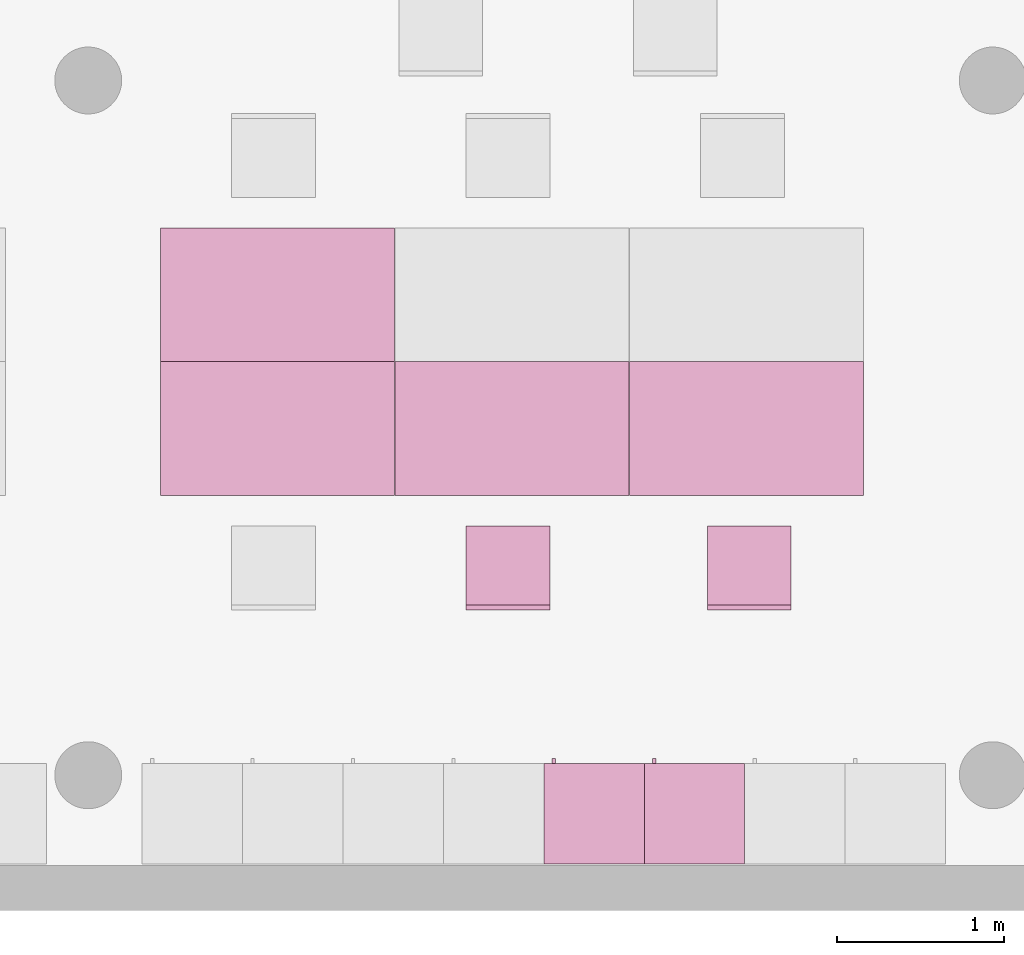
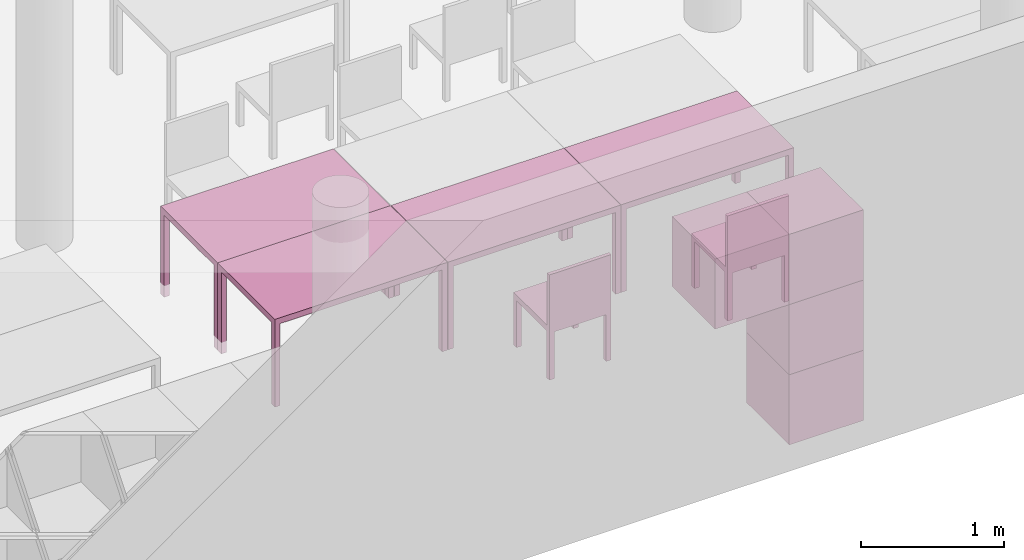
"""IFC4 building model written with IfcOpenShell, lengths in metres."""

from ifc_helpers import new_model, entity, si_unit, converted_unit, derived_unit, frame, origin, place, context, subcontext, project, spatial, faceted_brep, element, save


model = new_model("IFC4")

# Units and contexts
model_context = context("Model", 3, precision=1e-05, world=origin())
body_context = subcontext(model_context, "Body", "Model", "MODEL_VIEW")
ifc_project = project(units=[si_unit("LENGTHUNIT", "METRE"), si_unit("AREAUNIT", "SQUARE_METRE"), si_unit("VOLUMEUNIT", "CUBIC_METRE"), si_unit("MASSUNIT", "GRAM", prefix="KILO"), converted_unit("PLANEANGLEUNIT", "DEGREE", entity("IfcPlaneAngleMeasure", 0.0174532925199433), si_unit("PLANEANGLEUNIT", "RADIAN"), dimensions=[0, 0, 0, 0, 0, 0, 0]), derived_unit("THERMALTRANSMITTANCEUNIT", [(si_unit("POWERUNIT", "WATT"), 1), (si_unit("THERMODYNAMICTEMPERATUREUNIT", "KELVIN"), -1), (si_unit("LENGTHUNIT", "METRE"), -2)]), derived_unit("VOLUMETRICFLOWRATEUNIT", [(si_unit("LENGTHUNIT", "METRE"), 3), (converted_unit("TIMEUNIT", "hour", entity("IfcTimeMeasure", 3600.0), si_unit("TIMEUNIT", "SECOND"), dimensions=[0, 0, 1, 0, 0, 0, 0]), -1), (si_unit("LENGTHUNIT", "METRE"), -1)])], contexts=[model_context])

# Building, storeys
building_placement = place(None, origin())
building = spatial("IfcBuilding", under=ifc_project, at=building_placement, Name="HABITATGE PLURIFAMILIAR", CompositionType="ELEMENT")
storey_1_placement = place(building_placement, frame((0.0, 0.0, 15.28)))
storey_1 = spatial("IfcBuildingStorey", under=building, at=storey_1_placement, Name="PLANTA QUARTA", CompositionType="ELEMENT", Elevation=15.28)
storey_2_placement = place(storey_1_placement, frame((0.0, 0.0, 12.27)))
storey_2 = spatial("IfcBuildingStorey", under=storey_1, at=storey_2_placement, Name="NOU", CompositionType="PARTIAL")

# Furniture
furniture_1_placement = place(storey_2_placement, frame((411.165829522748, 15.3194598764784, -12.3699999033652)))
element("IfcFurniture", 1, at=furniture_1_placement, inside=storey_2, Name="Taula 140X80_P4", context=body_context, shape_type="Brep", body=[
    faceted_brep([(0.04375, 0.750069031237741, 0.0), (0.04375, 0.800069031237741, 0.0), (0.0, 0.800069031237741, 0.0), (0.0, 0.750069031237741, 0.0), (0.04375, 0.800069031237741, 0.7), (0.04375, 0.750069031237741, 0.7), (0.0, 0.750069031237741, 0.7), (0.0, 0.800069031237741, 0.7)], [[[0, 1, 2, 3]], [[4, 5, 6, 7]], [[1, 0, 5, 4]], [[2, 1, 4, 7]], [[3, 2, 7, 6]], [[0, 3, 6, 5]]], orient=[[False], [False], [False], [False], [False], [False]]),
    faceted_brep([(0.04375, 0.0, 0.0), (0.04375, 0.05, 0.0), (0.0, 0.05, 0.0), (0.0, 0.0, 0.0), (0.04375, 0.05, 0.7), (0.04375, 0.0, 0.7), (0.0, 0.0, 0.7), (0.0, 0.05, 0.7)], [[[0, 1, 2, 3]], [[4, 5, 6, 7]], [[1, 0, 5, 4]], [[2, 1, 4, 7]], [[3, 2, 7, 6]], [[0, 3, 6, 5]]], orient=[[False], [False], [False], [False], [False], [False]]),
    faceted_brep([(1.39732768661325, 0.0, 0.7), (1.39732768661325, 0.800069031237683, 0.7), (0.0, 0.800069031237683, 0.7), (0.0, 0.0, 0.7), (1.39732768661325, 0.800069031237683, 0.75), (1.39732768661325, 0.0, 0.75), (0.0, 0.0, 0.75), (0.0, 0.800069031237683, 0.75)], [[[0, 1, 2, 3]], [[4, 5, 6, 7]], [[1, 0, 5, 4]], [[2, 1, 4, 7]], [[3, 2, 7, 6]], [[0, 3, 6, 5]]], orient=[[False], [False], [False], [False], [False], [False]]),
    faceted_brep([(1.39732768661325, 0.750069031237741, 0.0), (1.39732768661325, 0.800069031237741, 0.0), (1.35357768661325, 0.800069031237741, 0.0), (1.35357768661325, 0.750069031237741, 0.0), (1.39732768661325, 0.800069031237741, 0.7), (1.39732768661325, 0.750069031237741, 0.7), (1.35357768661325, 0.750069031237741, 0.7), (1.35357768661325, 0.800069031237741, 0.7)], [[[0, 1, 2, 3]], [[4, 5, 6, 7]], [[1, 0, 5, 4]], [[2, 1, 4, 7]], [[3, 2, 7, 6]], [[0, 3, 6, 5]]], orient=[[False], [False], [False], [False], [False], [False]]),
    faceted_brep([(1.39732768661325, 0.0, 0.0), (1.39732768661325, 0.05, 0.0), (1.35357768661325, 0.05, 0.0), (1.35357768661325, 0.0, 0.0), (1.39732768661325, 0.05, 0.7), (1.39732768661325, 0.0, 0.7), (1.35357768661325, 0.0, 0.7), (1.35357768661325, 0.05, 0.7)], [[[0, 1, 2, 3]], [[4, 5, 6, 7]], [[1, 0, 5, 4]], [[2, 1, 4, 7]], [[3, 2, 7, 6]], [[0, 3, 6, 5]]], orient=[[False], [False], [False], [False], [False], [False]]),
])
furniture_2_placement = place(storey_2_placement, frame((412.567008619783, 15.3194598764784, -12.3699999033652)))
element("IfcFurniture", 2, at=furniture_2_placement, inside=storey_2, Name="Taula 140X80_P4", context=body_context, shape_type="Brep", body=[
    faceted_brep([(0.04375, 0.750069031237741, 0.0), (0.04375, 0.800069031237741, 0.0), (0.0, 0.800069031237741, 0.0), (0.0, 0.750069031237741, 0.0), (0.04375, 0.800069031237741, 0.7), (0.04375, 0.750069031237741, 0.7), (0.0, 0.750069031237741, 0.7), (0.0, 0.800069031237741, 0.7)], [[[0, 1, 2, 3]], [[4, 5, 6, 7]], [[1, 0, 5, 4]], [[2, 1, 4, 7]], [[3, 2, 7, 6]], [[0, 3, 6, 5]]], orient=[[False], [False], [False], [False], [False], [False]]),
    faceted_brep([(0.04375, 0.0, 0.0), (0.04375, 0.05, 0.0), (0.0, 0.05, 0.0), (0.0, 0.0, 0.0), (0.04375, 0.05, 0.7), (0.04375, 0.0, 0.7), (0.0, 0.0, 0.7), (0.0, 0.05, 0.7)], [[[0, 1, 2, 3]], [[4, 5, 6, 7]], [[1, 0, 5, 4]], [[2, 1, 4, 7]], [[3, 2, 7, 6]], [[0, 3, 6, 5]]], orient=[[False], [False], [False], [False], [False], [False]]),
    faceted_brep([(1.39732768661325, 0.0, 0.7), (1.39732768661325, 0.800069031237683, 0.7), (0.0, 0.800069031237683, 0.7), (0.0, 0.0, 0.7), (1.39732768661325, 0.800069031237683, 0.75), (1.39732768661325, 0.0, 0.75), (0.0, 0.0, 0.75), (0.0, 0.800069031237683, 0.75)], [[[0, 1, 2, 3]], [[4, 5, 6, 7]], [[1, 0, 5, 4]], [[2, 1, 4, 7]], [[3, 2, 7, 6]], [[0, 3, 6, 5]]], orient=[[False], [False], [False], [False], [False], [False]]),
    faceted_brep([(1.39732768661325, 0.750069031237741, 0.0), (1.39732768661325, 0.800069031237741, 0.0), (1.35357768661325, 0.800069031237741, 0.0), (1.35357768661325, 0.750069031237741, 0.0), (1.39732768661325, 0.800069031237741, 0.7), (1.39732768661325, 0.750069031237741, 0.7), (1.35357768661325, 0.750069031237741, 0.7), (1.35357768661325, 0.800069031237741, 0.7)], [[[0, 1, 2, 3]], [[4, 5, 6, 7]], [[1, 0, 5, 4]], [[2, 1, 4, 7]], [[3, 2, 7, 6]], [[0, 3, 6, 5]]], orient=[[False], [False], [False], [False], [False], [False]]),
    faceted_brep([(1.39732768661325, 0.0, 0.0), (1.39732768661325, 0.05, 0.0), (1.35357768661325, 0.05, 0.0), (1.35357768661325, 0.0, 0.0), (1.39732768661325, 0.05, 0.7), (1.39732768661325, 0.0, 0.7), (1.35357768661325, 0.0, 0.7), (1.35357768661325, 0.05, 0.7)], [[[0, 1, 2, 3]], [[4, 5, 6, 7]], [[1, 0, 5, 4]], [[2, 1, 4, 7]], [[3, 2, 7, 6]], [[0, 3, 6, 5]]], orient=[[False], [False], [False], [False], [False], [False]]),
])
furniture_3_placement = place(storey_2_placement, frame((411.165829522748, 16.119528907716, -12.3699999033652)))
element("IfcFurniture", 3, at=furniture_3_placement, inside=storey_2, Name="Taula 140X80_P4", context=body_context, shape_type="Brep", body=[
    faceted_brep([(0.04375, 0.05, 0.0), (0.0, 0.05, 0.0), (0.0, 0.0, 0.0), (0.04375, 0.0, 0.0), (0.04375, 0.0, 0.7), (0.0, 0.0, 0.7), (0.0, 0.05, 0.7), (0.04375, 0.05, 0.7)], [[[0, 1, 2, 3]], [[4, 5, 6, 7]], [[3, 4, 7, 0]], [[2, 5, 4, 3]], [[1, 6, 5, 2]], [[0, 7, 6, 1]]], orient=[[False], [False], [False], [False], [False], [False]]),
    faceted_brep([(0.04375, 0.800069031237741, 0.0), (0.0, 0.800069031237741, 0.0), (0.0, 0.750069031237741, 0.0), (0.04375, 0.750069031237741, 0.0), (0.04375, 0.750069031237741, 0.7), (0.0, 0.750069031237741, 0.7), (0.0, 0.800069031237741, 0.7), (0.04375, 0.800069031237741, 0.7)], [[[0, 1, 2, 3]], [[4, 5, 6, 7]], [[3, 4, 7, 0]], [[2, 5, 4, 3]], [[1, 6, 5, 2]], [[0, 7, 6, 1]]], orient=[[False], [False], [False], [False], [False], [False]]),
    faceted_brep([(1.39732768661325, 0.800069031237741, 0.7), (0.0, 0.800069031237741, 0.7), (0.0, 0.0, 0.7), (1.39732768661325, 0.0, 0.7), (1.39732768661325, 0.0, 0.75), (0.0, 0.0, 0.75), (0.0, 0.800069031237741, 0.75), (1.39732768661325, 0.800069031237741, 0.75)], [[[0, 1, 2, 3]], [[4, 5, 6, 7]], [[3, 4, 7, 0]], [[2, 5, 4, 3]], [[1, 6, 5, 2]], [[0, 7, 6, 1]]], orient=[[False], [False], [False], [False], [False], [False]]),
    faceted_brep([(1.39732768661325, 0.05, 0.0), (1.35357768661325, 0.05, 0.0), (1.35357768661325, 0.0, 0.0), (1.39732768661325, 0.0, 0.0), (1.39732768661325, 0.0, 0.7), (1.35357768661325, 0.0, 0.7), (1.35357768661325, 0.05, 0.7), (1.39732768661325, 0.05, 0.7)], [[[0, 1, 2, 3]], [[4, 5, 6, 7]], [[3, 4, 7, 0]], [[2, 5, 4, 3]], [[1, 6, 5, 2]], [[0, 7, 6, 1]]], orient=[[False], [False], [False], [False], [False], [False]]),
    faceted_brep([(1.39732768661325, 0.800069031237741, 0.0), (1.35357768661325, 0.800069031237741, 0.0), (1.35357768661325, 0.750069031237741, 0.0), (1.39732768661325, 0.750069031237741, 0.0), (1.39732768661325, 0.750069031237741, 0.7), (1.35357768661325, 0.750069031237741, 0.7), (1.35357768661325, 0.800069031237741, 0.7), (1.39732768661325, 0.800069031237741, 0.7)], [[[0, 1, 2, 3]], [[4, 5, 6, 7]], [[3, 4, 7, 0]], [[2, 5, 4, 3]], [[1, 6, 5, 2]], [[0, 7, 6, 1]]], orient=[[False], [False], [False], [False], [False], [False]]),
])
furniture_4_placement = place(storey_2_placement, frame((413.967008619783, 15.3194598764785, -12.3699999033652)))
element("IfcFurniture", 4, at=furniture_4_placement, inside=storey_2, Name="Taula 140X80_P4", context=body_context, shape_type="Brep", body=[
    faceted_brep([(0.04375, 0.750069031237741, 0.0), (0.04375, 0.800069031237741, 0.0), (0.0, 0.800069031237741, 0.0), (0.0, 0.750069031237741, 0.0), (0.04375, 0.800069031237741, 0.7), (0.04375, 0.750069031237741, 0.7), (0.0, 0.750069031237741, 0.7), (0.0, 0.800069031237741, 0.7)], [[[0, 1, 2, 3]], [[4, 5, 6, 7]], [[1, 0, 5, 4]], [[2, 1, 4, 7]], [[3, 2, 7, 6]], [[0, 3, 6, 5]]], orient=[[False], [False], [False], [False], [False], [False]]),
    faceted_brep([(0.04375, 0.0, 0.0), (0.04375, 0.05, 0.0), (0.0, 0.05, 0.0), (0.0, 0.0, 0.0), (0.04375, 0.05, 0.7), (0.04375, 0.0, 0.7), (0.0, 0.0, 0.7), (0.0, 0.05, 0.7)], [[[0, 1, 2, 3]], [[4, 5, 6, 7]], [[1, 0, 5, 4]], [[2, 1, 4, 7]], [[3, 2, 7, 6]], [[0, 3, 6, 5]]], orient=[[False], [False], [False], [False], [False], [False]]),
    faceted_brep([(1.39732768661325, 0.0, 0.7), (1.39732768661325, 0.800069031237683, 0.7), (0.0, 0.800069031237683, 0.7), (0.0, 0.0, 0.7), (1.39732768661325, 0.800069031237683, 0.75), (1.39732768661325, 0.0, 0.75), (0.0, 0.0, 0.75), (0.0, 0.800069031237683, 0.75)], [[[0, 1, 2, 3]], [[4, 5, 6, 7]], [[1, 0, 5, 4]], [[2, 1, 4, 7]], [[3, 2, 7, 6]], [[0, 3, 6, 5]]], orient=[[False], [False], [False], [False], [False], [False]]),
    faceted_brep([(1.39732768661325, 0.750069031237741, 0.0), (1.39732768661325, 0.800069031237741, 0.0), (1.35357768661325, 0.800069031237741, 0.0), (1.35357768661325, 0.750069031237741, 0.0), (1.39732768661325, 0.800069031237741, 0.7), (1.39732768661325, 0.750069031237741, 0.7), (1.35357768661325, 0.750069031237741, 0.7), (1.35357768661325, 0.800069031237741, 0.7)], [[[0, 1, 2, 3]], [[4, 5, 6, 7]], [[1, 0, 5, 4]], [[2, 1, 4, 7]], [[3, 2, 7, 6]], [[0, 3, 6, 5]]], orient=[[False], [False], [False], [False], [False], [False]]),
    faceted_brep([(1.39732768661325, 0.0, 0.0), (1.39732768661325, 0.05, 0.0), (1.35357768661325, 0.05, 0.0), (1.35357768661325, 0.0, 0.0), (1.39732768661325, 0.05, 0.7), (1.39732768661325, 0.0, 0.7), (1.35357768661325, 0.0, 0.7), (1.35357768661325, 0.05, 0.7)], [[[0, 1, 2, 3]], [[4, 5, 6, 7]], [[1, 0, 5, 4]], [[2, 1, 4, 7]], [[3, 2, 7, 6]], [[0, 3, 6, 5]]], orient=[[False], [False], [False], [False], [False], [False]]),
])
furniture_5_placement = place(storey_2_placement, frame((414.05527037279, 13.1194598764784, -11.77)))
element("IfcFurniture", 5, at=furniture_5_placement, inside=storey_2, Name="Armai 60x60x60_P4", context=body_context, shape_type="Brep", body=[
    faceted_brep([(0.0, 0.6, 0.02), (0.0, 0.6, 0.0), (0.6, 0.6, 0.0), (0.6, 0.6, 0.02), (0.6, 0.0, 0.0), (0.6, 0.0, 0.02), (0.0, 0.0, 0.0), (0.0, 0.0, 0.02)], [[[0, 1, 2, 3]], [[3, 2, 4, 5]], [[5, 4, 6, 7]], [[7, 6, 1, 0]], [[0, 3, 5, 7]], [[1, 6, 4, 2]]], orient=[[False], [False], [False], [False], [False], [False]]),
    faceted_brep([(0.580000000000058, 0.0, 0.58), (0.580000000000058, 0.0200000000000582, 0.58), (0.580000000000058, 0.0200000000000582, 0.02), (0.580000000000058, 0.0, 0.02), (0.0200000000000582, 0.0200000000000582, 0.02), (0.0200000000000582, 0.0, 0.02), (0.0200000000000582, 0.0200000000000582, 0.58), (0.0200000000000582, 0.0, 0.58)], [[[0, 1, 2, 3]], [[3, 2, 4, 5]], [[5, 4, 6, 7]], [[7, 6, 1, 0]], [[0, 3, 5, 7]], [[1, 6, 4, 2]]], orient=[[False], [False], [False], [False], [False], [False]]),
    faceted_brep([(0.0200000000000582, 0.6, 0.58), (0.0, 0.6, 0.58), (0.0, 0.6, 0.02), (0.0200000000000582, 0.6, 0.02), (0.0, 0.0, 0.02), (0.0200000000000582, 0.0, 0.02), (0.0, 0.0, 0.58), (0.0200000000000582, 0.0, 0.58)], [[[0, 1, 2, 3]], [[3, 2, 4, 5]], [[5, 4, 6, 7]], [[7, 6, 1, 0]], [[0, 3, 5, 7]], [[1, 6, 4, 2]]], orient=[[False], [False], [False], [False], [False], [False]]),
    faceted_brep([(0.0, 0.58, 0.58), (0.0, 0.6, 0.58), (0.0, 0.6, 0.02), (0.0, 0.58, 0.02), (0.02, 0.6, 0.02), (0.02, 0.58, 0.02), (0.02, 0.6, 0.58), (0.02, 0.58, 0.58)], [[[0, 1, 2, 3]], [[3, 2, 4, 5]], [[5, 4, 6, 7]], [[7, 6, 1, 0]], [[0, 3, 5, 7]], [[1, 6, 4, 2]]], orient=[[False], [False], [False], [False], [False], [False]]),
    faceted_brep([(0.6, 0.6, 0.58), (0.58, 0.6, 0.58), (0.58, 0.6, 0.02), (0.6, 0.6, 0.02), (0.58, 0.0, 0.02), (0.6, 0.0, 0.02), (0.58, 0.0, 0.58), (0.6, 0.0, 0.58)], [[[0, 1, 2, 3]], [[3, 2, 4, 5]], [[5, 4, 6, 7]], [[7, 6, 1, 0]], [[0, 3, 5, 7]], [[1, 6, 4, 2]]], orient=[[False], [False], [False], [False], [False], [False]]),
    faceted_brep([(0.0, 0.600000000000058, 0.6), (0.0, 0.600000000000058, 0.58), (0.600000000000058, 0.600000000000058, 0.58), (0.600000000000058, 0.600000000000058, 0.6), (0.600000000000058, 0.0, 0.58), (0.600000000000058, 0.0, 0.6), (0.0, 0.0, 0.58), (0.0, 0.0, 0.6)], [[[0, 1, 2, 3]], [[3, 2, 4, 5]], [[5, 4, 6, 7]], [[7, 6, 1, 0]], [[0, 3, 5, 7]], [[1, 6, 4, 2]]], orient=[[False], [False], [False], [False], [False], [False]]),
    faceted_brep([(0.580000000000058, 0.580000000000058, 0.58), (0.580000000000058, 0.600000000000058, 0.58), (0.580000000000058, 0.600000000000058, 0.02), (0.580000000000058, 0.580000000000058, 0.02), (0.02, 0.600000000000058, 0.02), (0.02, 0.580000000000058, 0.02), (0.02, 0.600000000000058, 0.58), (0.02, 0.580000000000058, 0.58)], [[[0, 1, 2, 3]], [[3, 2, 4, 5]], [[5, 4, 6, 7]], [[7, 6, 1, 0]], [[0, 3, 5, 7]], [[1, 6, 4, 2]]], orient=[[False], [False], [False], [False], [False], [False]]),
    faceted_brep([(0.0700000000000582, 0.600000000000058, 0.358064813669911), (0.0700000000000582, 0.630000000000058, 0.358064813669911), (0.0700000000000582, 0.630000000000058, 0.258064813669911), (0.0700000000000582, 0.600000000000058, 0.258064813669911), (0.0500000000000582, 0.630000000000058, 0.258064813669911), (0.0500000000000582, 0.600000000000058, 0.258064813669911), (0.0500000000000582, 0.630000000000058, 0.358064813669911), (0.0500000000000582, 0.600000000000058, 0.358064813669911)], [[[0, 1, 2, 3]], [[3, 2, 4, 5]], [[5, 4, 6, 7]], [[7, 6, 1, 0]], [[0, 3, 5, 7]], [[1, 6, 4, 2]]], orient=[[False], [False], [False], [False], [False], [False]]),
])
furniture_6_placement = place(storey_2_placement, frame((414.05527037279, 13.1194598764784, -11.17)))
element("IfcFurniture", 6, at=furniture_6_placement, inside=storey_2, Name="Armai 60x60x60_P4", context=body_context, shape_type="Brep", body=[
    faceted_brep([(0.0, 0.6, 0.02), (0.0, 0.6, 0.0), (0.6, 0.6, 0.0), (0.6, 0.6, 0.02), (0.6, 0.0, 0.0), (0.6, 0.0, 0.02), (0.0, 0.0, 0.0), (0.0, 0.0, 0.02)], [[[0, 1, 2, 3]], [[3, 2, 4, 5]], [[5, 4, 6, 7]], [[7, 6, 1, 0]], [[0, 3, 5, 7]], [[1, 6, 4, 2]]], orient=[[False], [False], [False], [False], [False], [False]]),
    faceted_brep([(0.580000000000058, 0.0, 0.58), (0.580000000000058, 0.0200000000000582, 0.58), (0.580000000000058, 0.0200000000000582, 0.02), (0.580000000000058, 0.0, 0.02), (0.0200000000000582, 0.0200000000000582, 0.02), (0.0200000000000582, 0.0, 0.02), (0.0200000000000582, 0.0200000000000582, 0.58), (0.0200000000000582, 0.0, 0.58)], [[[0, 1, 2, 3]], [[3, 2, 4, 5]], [[5, 4, 6, 7]], [[7, 6, 1, 0]], [[0, 3, 5, 7]], [[1, 6, 4, 2]]], orient=[[False], [False], [False], [False], [False], [False]]),
    faceted_brep([(0.0200000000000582, 0.6, 0.58), (0.0, 0.6, 0.58), (0.0, 0.6, 0.02), (0.0200000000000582, 0.6, 0.02), (0.0, 0.0, 0.02), (0.0200000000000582, 0.0, 0.02), (0.0, 0.0, 0.58), (0.0200000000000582, 0.0, 0.58)], [[[0, 1, 2, 3]], [[3, 2, 4, 5]], [[5, 4, 6, 7]], [[7, 6, 1, 0]], [[0, 3, 5, 7]], [[1, 6, 4, 2]]], orient=[[False], [False], [False], [False], [False], [False]]),
    faceted_brep([(0.0, 0.58, 0.58), (0.0, 0.6, 0.58), (0.0, 0.6, 0.02), (0.0, 0.58, 0.02), (0.02, 0.6, 0.02), (0.02, 0.58, 0.02), (0.02, 0.6, 0.58), (0.02, 0.58, 0.58)], [[[0, 1, 2, 3]], [[3, 2, 4, 5]], [[5, 4, 6, 7]], [[7, 6, 1, 0]], [[0, 3, 5, 7]], [[1, 6, 4, 2]]], orient=[[False], [False], [False], [False], [False], [False]]),
    faceted_brep([(0.6, 0.6, 0.58), (0.58, 0.6, 0.58), (0.58, 0.6, 0.02), (0.6, 0.6, 0.02), (0.58, 0.0, 0.02), (0.6, 0.0, 0.02), (0.58, 0.0, 0.58), (0.6, 0.0, 0.58)], [[[0, 1, 2, 3]], [[3, 2, 4, 5]], [[5, 4, 6, 7]], [[7, 6, 1, 0]], [[0, 3, 5, 7]], [[1, 6, 4, 2]]], orient=[[False], [False], [False], [False], [False], [False]]),
    faceted_brep([(0.0, 0.600000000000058, 0.6), (0.0, 0.600000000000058, 0.58), (0.600000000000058, 0.600000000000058, 0.58), (0.600000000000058, 0.600000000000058, 0.6), (0.600000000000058, 0.0, 0.58), (0.600000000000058, 0.0, 0.6), (0.0, 0.0, 0.58), (0.0, 0.0, 0.6)], [[[0, 1, 2, 3]], [[3, 2, 4, 5]], [[5, 4, 6, 7]], [[7, 6, 1, 0]], [[0, 3, 5, 7]], [[1, 6, 4, 2]]], orient=[[False], [False], [False], [False], [False], [False]]),
    faceted_brep([(0.580000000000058, 0.580000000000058, 0.58), (0.580000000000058, 0.600000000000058, 0.58), (0.580000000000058, 0.600000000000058, 0.02), (0.580000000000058, 0.580000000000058, 0.02), (0.02, 0.600000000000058, 0.02), (0.02, 0.580000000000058, 0.02), (0.02, 0.600000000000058, 0.58), (0.02, 0.580000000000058, 0.58)], [[[0, 1, 2, 3]], [[3, 2, 4, 5]], [[5, 4, 6, 7]], [[7, 6, 1, 0]], [[0, 3, 5, 7]], [[1, 6, 4, 2]]], orient=[[False], [False], [False], [False], [False], [False]]),
    faceted_brep([(0.0700000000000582, 0.600000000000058, 0.358064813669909), (0.0700000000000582, 0.630000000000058, 0.358064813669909), (0.0700000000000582, 0.630000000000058, 0.258064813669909), (0.0700000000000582, 0.600000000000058, 0.258064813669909), (0.0500000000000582, 0.630000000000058, 0.258064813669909), (0.0500000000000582, 0.600000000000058, 0.258064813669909), (0.0500000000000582, 0.630000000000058, 0.358064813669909), (0.0500000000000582, 0.600000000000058, 0.358064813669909)], [[[0, 1, 2, 3]], [[3, 2, 4, 5]], [[5, 4, 6, 7]], [[7, 6, 1, 0]], [[0, 3, 5, 7]], [[1, 6, 4, 2]]], orient=[[False], [False], [False], [False], [False], [False]]),
])
furniture_7_placement = place(storey_2_placement, frame((414.05527037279, 13.1194598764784, -12.37)))
element("IfcFurniture", 7, at=furniture_7_placement, inside=storey_2, Name="Armai 60x60x60_P4", context=body_context, shape_type="Brep", body=[
    faceted_brep([(0.0, 0.6, 0.02), (0.0, 0.6, 0.0), (0.6, 0.6, 0.0), (0.6, 0.6, 0.02), (0.6, 0.0, 0.0), (0.6, 0.0, 0.02), (0.0, 0.0, 0.0), (0.0, 0.0, 0.02)], [[[0, 1, 2, 3]], [[3, 2, 4, 5]], [[5, 4, 6, 7]], [[7, 6, 1, 0]], [[0, 3, 5, 7]], [[1, 6, 4, 2]]], orient=[[False], [False], [False], [False], [False], [False]]),
    faceted_brep([(0.580000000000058, 0.0, 0.58), (0.580000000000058, 0.0200000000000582, 0.58), (0.580000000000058, 0.0200000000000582, 0.02), (0.580000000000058, 0.0, 0.02), (0.0200000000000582, 0.0200000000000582, 0.02), (0.0200000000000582, 0.0, 0.02), (0.0200000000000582, 0.0200000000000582, 0.58), (0.0200000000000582, 0.0, 0.58)], [[[0, 1, 2, 3]], [[3, 2, 4, 5]], [[5, 4, 6, 7]], [[7, 6, 1, 0]], [[0, 3, 5, 7]], [[1, 6, 4, 2]]], orient=[[False], [False], [False], [False], [False], [False]]),
    faceted_brep([(0.0200000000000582, 0.6, 0.58), (0.0, 0.6, 0.58), (0.0, 0.6, 0.02), (0.0200000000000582, 0.6, 0.02), (0.0, 0.0, 0.02), (0.0200000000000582, 0.0, 0.02), (0.0, 0.0, 0.58), (0.0200000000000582, 0.0, 0.58)], [[[0, 1, 2, 3]], [[3, 2, 4, 5]], [[5, 4, 6, 7]], [[7, 6, 1, 0]], [[0, 3, 5, 7]], [[1, 6, 4, 2]]], orient=[[False], [False], [False], [False], [False], [False]]),
    faceted_brep([(0.0, 0.58, 0.58), (0.0, 0.6, 0.58), (0.0, 0.6, 0.02), (0.0, 0.58, 0.02), (0.02, 0.6, 0.02), (0.02, 0.58, 0.02), (0.02, 0.6, 0.58), (0.02, 0.58, 0.58)], [[[0, 1, 2, 3]], [[3, 2, 4, 5]], [[5, 4, 6, 7]], [[7, 6, 1, 0]], [[0, 3, 5, 7]], [[1, 6, 4, 2]]], orient=[[False], [False], [False], [False], [False], [False]]),
    faceted_brep([(0.6, 0.6, 0.58), (0.58, 0.6, 0.58), (0.58, 0.6, 0.02), (0.6, 0.6, 0.02), (0.58, 0.0, 0.02), (0.6, 0.0, 0.02), (0.58, 0.0, 0.58), (0.6, 0.0, 0.58)], [[[0, 1, 2, 3]], [[3, 2, 4, 5]], [[5, 4, 6, 7]], [[7, 6, 1, 0]], [[0, 3, 5, 7]], [[1, 6, 4, 2]]], orient=[[False], [False], [False], [False], [False], [False]]),
    faceted_brep([(0.0, 0.600000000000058, 0.6), (0.0, 0.600000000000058, 0.58), (0.600000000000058, 0.600000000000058, 0.58), (0.600000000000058, 0.600000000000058, 0.6), (0.600000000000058, 0.0, 0.58), (0.600000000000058, 0.0, 0.6), (0.0, 0.0, 0.58), (0.0, 0.0, 0.6)], [[[0, 1, 2, 3]], [[3, 2, 4, 5]], [[5, 4, 6, 7]], [[7, 6, 1, 0]], [[0, 3, 5, 7]], [[1, 6, 4, 2]]], orient=[[False], [False], [False], [False], [False], [False]]),
    faceted_brep([(0.580000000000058, 0.580000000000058, 0.58), (0.580000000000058, 0.600000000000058, 0.58), (0.580000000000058, 0.600000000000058, 0.02), (0.580000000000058, 0.580000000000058, 0.02), (0.02, 0.600000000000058, 0.02), (0.02, 0.580000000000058, 0.02), (0.02, 0.600000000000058, 0.58), (0.02, 0.580000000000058, 0.58)], [[[0, 1, 2, 3]], [[3, 2, 4, 5]], [[5, 4, 6, 7]], [[7, 6, 1, 0]], [[0, 3, 5, 7]], [[1, 6, 4, 2]]], orient=[[False], [False], [False], [False], [False], [False]]),
    faceted_brep([(0.0700000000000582, 0.600000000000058, 0.358064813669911), (0.0700000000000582, 0.630000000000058, 0.358064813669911), (0.0700000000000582, 0.630000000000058, 0.258064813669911), (0.0700000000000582, 0.600000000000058, 0.258064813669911), (0.0500000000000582, 0.630000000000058, 0.258064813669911), (0.0500000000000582, 0.600000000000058, 0.258064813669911), (0.0500000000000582, 0.630000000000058, 0.358064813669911), (0.0500000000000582, 0.600000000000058, 0.358064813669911)], [[[0, 1, 2, 3]], [[3, 2, 4, 5]], [[5, 4, 6, 7]], [[7, 6, 1, 0]], [[0, 3, 5, 7]], [[1, 6, 4, 2]]], orient=[[False], [False], [False], [False], [False], [False]]),
])
furniture_8_placement = place(storey_2_placement, frame((413.45527037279, 13.1194598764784, -11.17)))
element("IfcFurniture", 8, at=furniture_8_placement, inside=storey_2, Name="Armai 60x60x60_P4", context=body_context, shape_type="Brep", body=[
    faceted_brep([(0.0, 0.6, 0.02), (0.0, 0.6, 0.0), (0.6, 0.6, 0.0), (0.6, 0.6, 0.02), (0.6, 0.0, 0.0), (0.6, 0.0, 0.02), (0.0, 0.0, 0.0), (0.0, 0.0, 0.02)], [[[0, 1, 2, 3]], [[3, 2, 4, 5]], [[5, 4, 6, 7]], [[7, 6, 1, 0]], [[0, 3, 5, 7]], [[1, 6, 4, 2]]], orient=[[False], [False], [False], [False], [False], [False]]),
    faceted_brep([(0.580000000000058, 0.0, 0.58), (0.580000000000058, 0.0200000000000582, 0.58), (0.580000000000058, 0.0200000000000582, 0.02), (0.580000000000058, 0.0, 0.02), (0.0200000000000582, 0.0200000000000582, 0.02), (0.0200000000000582, 0.0, 0.02), (0.0200000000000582, 0.0200000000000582, 0.58), (0.0200000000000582, 0.0, 0.58)], [[[0, 1, 2, 3]], [[3, 2, 4, 5]], [[5, 4, 6, 7]], [[7, 6, 1, 0]], [[0, 3, 5, 7]], [[1, 6, 4, 2]]], orient=[[False], [False], [False], [False], [False], [False]]),
    faceted_brep([(0.0200000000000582, 0.6, 0.58), (0.0, 0.6, 0.58), (0.0, 0.6, 0.02), (0.0200000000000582, 0.6, 0.02), (0.0, 0.0, 0.02), (0.0200000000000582, 0.0, 0.02), (0.0, 0.0, 0.58), (0.0200000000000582, 0.0, 0.58)], [[[0, 1, 2, 3]], [[3, 2, 4, 5]], [[5, 4, 6, 7]], [[7, 6, 1, 0]], [[0, 3, 5, 7]], [[1, 6, 4, 2]]], orient=[[False], [False], [False], [False], [False], [False]]),
    faceted_brep([(0.0, 0.58, 0.58), (0.0, 0.6, 0.58), (0.0, 0.6, 0.02), (0.0, 0.58, 0.02), (0.02, 0.6, 0.02), (0.02, 0.58, 0.02), (0.02, 0.6, 0.58), (0.02, 0.58, 0.58)], [[[0, 1, 2, 3]], [[3, 2, 4, 5]], [[5, 4, 6, 7]], [[7, 6, 1, 0]], [[0, 3, 5, 7]], [[1, 6, 4, 2]]], orient=[[False], [False], [False], [False], [False], [False]]),
    faceted_brep([(0.6, 0.6, 0.58), (0.58, 0.6, 0.58), (0.58, 0.6, 0.02), (0.6, 0.6, 0.02), (0.58, 0.0, 0.02), (0.6, 0.0, 0.02), (0.58, 0.0, 0.58), (0.6, 0.0, 0.58)], [[[0, 1, 2, 3]], [[3, 2, 4, 5]], [[5, 4, 6, 7]], [[7, 6, 1, 0]], [[0, 3, 5, 7]], [[1, 6, 4, 2]]], orient=[[False], [False], [False], [False], [False], [False]]),
    faceted_brep([(0.0, 0.600000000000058, 0.6), (0.0, 0.600000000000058, 0.58), (0.600000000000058, 0.600000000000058, 0.58), (0.600000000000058, 0.600000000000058, 0.6), (0.600000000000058, 0.0, 0.58), (0.600000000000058, 0.0, 0.6), (0.0, 0.0, 0.58), (0.0, 0.0, 0.6)], [[[0, 1, 2, 3]], [[3, 2, 4, 5]], [[5, 4, 6, 7]], [[7, 6, 1, 0]], [[0, 3, 5, 7]], [[1, 6, 4, 2]]], orient=[[False], [False], [False], [False], [False], [False]]),
    faceted_brep([(0.580000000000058, 0.580000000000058, 0.58), (0.580000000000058, 0.600000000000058, 0.58), (0.580000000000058, 0.600000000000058, 0.02), (0.580000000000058, 0.580000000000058, 0.02), (0.02, 0.600000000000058, 0.02), (0.02, 0.580000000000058, 0.02), (0.02, 0.600000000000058, 0.58), (0.02, 0.580000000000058, 0.58)], [[[0, 1, 2, 3]], [[3, 2, 4, 5]], [[5, 4, 6, 7]], [[7, 6, 1, 0]], [[0, 3, 5, 7]], [[1, 6, 4, 2]]], orient=[[False], [False], [False], [False], [False], [False]]),
    faceted_brep([(0.0700000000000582, 0.600000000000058, 0.358064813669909), (0.0700000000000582, 0.630000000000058, 0.358064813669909), (0.0700000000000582, 0.630000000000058, 0.258064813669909), (0.0700000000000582, 0.600000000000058, 0.258064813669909), (0.0500000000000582, 0.630000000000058, 0.258064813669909), (0.0500000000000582, 0.600000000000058, 0.258064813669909), (0.0500000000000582, 0.630000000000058, 0.358064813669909), (0.0500000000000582, 0.600000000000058, 0.358064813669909)], [[[0, 1, 2, 3]], [[3, 2, 4, 5]], [[5, 4, 6, 7]], [[7, 6, 1, 0]], [[0, 3, 5, 7]], [[1, 6, 4, 2]]], orient=[[False], [False], [False], [False], [False], [False]]),
])
furniture_9_placement = place(storey_2_placement, frame((412.991699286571, 14.6372469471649, -12.3653305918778)))
element("IfcFurniture", 9, at=furniture_9_placement, inside=storey_2, Name="Cadira d'Oficina_P4", context=body_context, shape_type="Brep", body=[
    faceted_brep([(0.5, 0.5, 0.399999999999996), (0.0, 0.500000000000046, 0.399999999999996), (0.0, 0.0, 0.399999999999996), (0.5, 0.0, 0.399999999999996), (0.5, 0.0, 0.449999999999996), (0.0, 0.0, 0.449999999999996), (0.0, 0.500000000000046, 0.449999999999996), (0.5, 0.5, 0.449999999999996)], [[[0, 1, 2, 3]], [[4, 5, 6, 7]], [[3, 4, 7, 0]], [[2, 5, 4, 3]], [[1, 6, 5, 2]], [[0, 7, 6, 1]]], orient=[[False], [False], [False], [False], [False], [False]]),
    faceted_brep([(0.0, 0.0400000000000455, 0.0), (0.0, 0.0, 0.0), (0.04, 0.0, 0.0), (0.04, 0.0400000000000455, 0.0), (0.04, 0.0400000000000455, 0.4), (0.04, 0.0, 0.4), (0.0, 0.0, 0.4), (0.0, 0.0400000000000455, 0.4)], [[[0, 1, 2, 3]], [[4, 5, 6, 7]], [[3, 4, 7, 0]], [[2, 5, 4, 3]], [[1, 6, 5, 2]], [[0, 7, 6, 1]]], orient=[[False], [False], [False], [False], [False], [False]]),
    faceted_brep([(0.0, 0.500000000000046, 0.0), (0.0, 0.460000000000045, 0.0), (0.04, 0.460000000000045, 0.0), (0.04, 0.500000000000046, 0.0), (0.04, 0.500000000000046, 0.4), (0.04, 0.460000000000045, 0.4), (0.0, 0.460000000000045, 0.4), (0.0, 0.500000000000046, 0.4)], [[[0, 1, 2, 3]], [[4, 5, 6, 7]], [[3, 4, 7, 0]], [[2, 5, 4, 3]], [[1, 6, 5, 2]], [[0, 7, 6, 1]]], orient=[[False], [False], [False], [False], [False], [False]]),
    faceted_brep([(0.46, 0.04, 0.0), (0.46, 0.0, 0.0), (0.5, 0.0, 0.0), (0.5, 0.04, 0.0), (0.5, 0.04, 0.4), (0.5, 0.0, 0.4), (0.46, 0.0, 0.4), (0.46, 0.04, 0.4)], [[[0, 1, 2, 3]], [[4, 5, 6, 7]], [[3, 4, 7, 0]], [[2, 5, 4, 3]], [[1, 6, 5, 2]], [[0, 7, 6, 1]]], orient=[[False], [False], [False], [False], [False], [False]]),
    faceted_brep([(0.46, 0.5, 0.0), (0.46, 0.46, 0.0), (0.5, 0.46, 0.0), (0.5, 0.5, 0.0), (0.5, 0.5, 0.4), (0.5, 0.46, 0.4), (0.46, 0.46, 0.4), (0.46, 0.5, 0.4)], [[[0, 1, 2, 3]], [[4, 5, 6, 7]], [[3, 4, 7, 0]], [[2, 5, 4, 3]], [[1, 6, 5, 2]], [[0, 7, 6, 1]]], orient=[[False], [False], [False], [False], [False], [False]]),
    faceted_brep([(0.0, 0.0300000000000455, 0.45), (0.0, 0.0, 0.45), (0.5, 0.0, 0.45), (0.5, 0.03, 0.45), (0.5, 0.03, 0.9), (0.5, 0.0, 0.9), (0.0, 0.0, 0.9), (0.0, 0.0300000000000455, 0.9)], [[[0, 1, 2, 3]], [[4, 5, 6, 7]], [[3, 4, 7, 0]], [[2, 5, 4, 3]], [[1, 6, 5, 2]], [[0, 7, 6, 1]]], orient=[[False], [False], [False], [False], [False], [False]]),
])
furniture_10_placement = place(storey_2_placement, frame((414.431699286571, 14.6372469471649, -12.3653305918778)))
element("IfcFurniture", 10, at=furniture_10_placement, inside=storey_2, Name="Cadira d'Oficina_P4", context=body_context, shape_type="Brep", body=[
    faceted_brep([(0.5, 0.5, 0.399999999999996), (0.0, 0.500000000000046, 0.399999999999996), (0.0, 0.0, 0.399999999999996), (0.5, 0.0, 0.399999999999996), (0.5, 0.0, 0.449999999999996), (0.0, 0.0, 0.449999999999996), (0.0, 0.500000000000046, 0.449999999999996), (0.5, 0.5, 0.449999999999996)], [[[0, 1, 2, 3]], [[4, 5, 6, 7]], [[3, 4, 7, 0]], [[2, 5, 4, 3]], [[1, 6, 5, 2]], [[0, 7, 6, 1]]], orient=[[False], [False], [False], [False], [False], [False]]),
    faceted_brep([(0.0, 0.0400000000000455, 0.0), (0.0, 0.0, 0.0), (0.04, 0.0, 0.0), (0.04, 0.0400000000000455, 0.0), (0.04, 0.0400000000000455, 0.4), (0.04, 0.0, 0.4), (0.0, 0.0, 0.4), (0.0, 0.0400000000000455, 0.4)], [[[0, 1, 2, 3]], [[4, 5, 6, 7]], [[3, 4, 7, 0]], [[2, 5, 4, 3]], [[1, 6, 5, 2]], [[0, 7, 6, 1]]], orient=[[False], [False], [False], [False], [False], [False]]),
    faceted_brep([(0.0, 0.500000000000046, 0.0), (0.0, 0.460000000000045, 0.0), (0.04, 0.460000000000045, 0.0), (0.04, 0.500000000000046, 0.0), (0.04, 0.500000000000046, 0.4), (0.04, 0.460000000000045, 0.4), (0.0, 0.460000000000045, 0.4), (0.0, 0.500000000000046, 0.4)], [[[0, 1, 2, 3]], [[4, 5, 6, 7]], [[3, 4, 7, 0]], [[2, 5, 4, 3]], [[1, 6, 5, 2]], [[0, 7, 6, 1]]], orient=[[False], [False], [False], [False], [False], [False]]),
    faceted_brep([(0.46, 0.04, 0.0), (0.46, 0.0, 0.0), (0.5, 0.0, 0.0), (0.5, 0.04, 0.0), (0.5, 0.04, 0.4), (0.5, 0.0, 0.4), (0.46, 0.0, 0.4), (0.46, 0.04, 0.4)], [[[0, 1, 2, 3]], [[4, 5, 6, 7]], [[3, 4, 7, 0]], [[2, 5, 4, 3]], [[1, 6, 5, 2]], [[0, 7, 6, 1]]], orient=[[False], [False], [False], [False], [False], [False]]),
    faceted_brep([(0.46, 0.5, 0.0), (0.46, 0.46, 0.0), (0.5, 0.46, 0.0), (0.5, 0.5, 0.0), (0.5, 0.5, 0.4), (0.5, 0.46, 0.4), (0.46, 0.46, 0.4), (0.46, 0.5, 0.4)], [[[0, 1, 2, 3]], [[4, 5, 6, 7]], [[3, 4, 7, 0]], [[2, 5, 4, 3]], [[1, 6, 5, 2]], [[0, 7, 6, 1]]], orient=[[False], [False], [False], [False], [False], [False]]),
    faceted_brep([(0.0, 0.0300000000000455, 0.45), (0.0, 0.0, 0.45), (0.5, 0.0, 0.45), (0.5, 0.03, 0.45), (0.5, 0.03, 0.9), (0.5, 0.0, 0.9), (0.0, 0.0, 0.9), (0.0, 0.0300000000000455, 0.9)], [[[0, 1, 2, 3]], [[4, 5, 6, 7]], [[3, 4, 7, 0]], [[2, 5, 4, 3]], [[1, 6, 5, 2]], [[0, 7, 6, 1]]], orient=[[False], [False], [False], [False], [False], [False]]),
])

save(model, "model.ifc")
